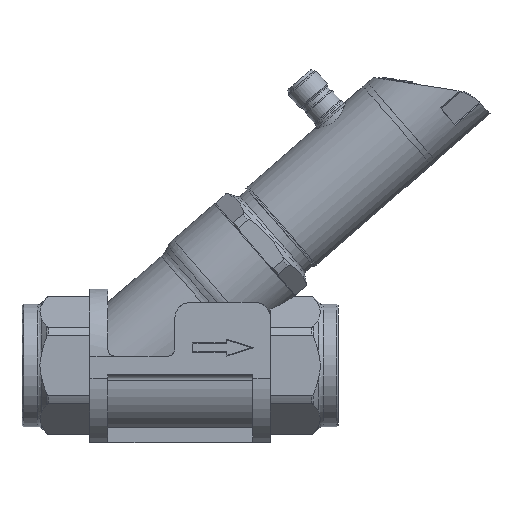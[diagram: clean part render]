
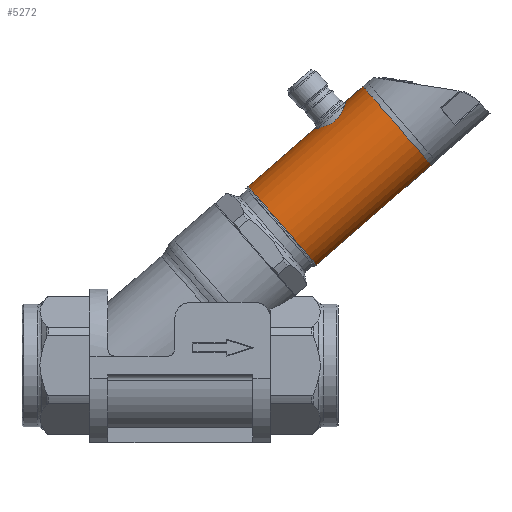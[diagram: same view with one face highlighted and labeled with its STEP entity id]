
A CAD part, top view. The second image highlights one B-rep face of the part: STEP entity #5272.
In plain terms, the highlighted cylindrical face has radius 17 mm (diameter 34 mm), a full revolution.
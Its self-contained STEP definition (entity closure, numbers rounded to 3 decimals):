
#735=CYLINDRICAL_SURFACE('',#5595,17.);
#860=CIRCLE('',#5596,17.);
#861=CIRCLE('',#5597,17.);
#1150=ORIENTED_EDGE('',*,*,#2413,.F.);
#1151=ORIENTED_EDGE('',*,*,#2414,.T.);
#1152=ORIENTED_EDGE('',*,*,#2415,.T.);
#1153=ORIENTED_EDGE('',*,*,#2416,.F.);
#1154=ORIENTED_EDGE('',*,*,#2417,.T.);
#1155=ORIENTED_EDGE('',*,*,#2418,.T.);
#1156=ORIENTED_EDGE('',*,*,#2419,.F.);
#1157=ORIENTED_EDGE('',*,*,#2420,.T.);
#2413=EDGE_CURVE('',#3038,#3038,#860,.T.);
#2414=EDGE_CURVE('',#3039,#3040,#3410,.T.);
#2415=EDGE_CURVE('',#3040,#3041,#3411,.T.);
#2416=EDGE_CURVE('',#3042,#3041,#3412,.T.);
#2417=EDGE_CURVE('',#3042,#3043,#3413,.T.);
#2418=EDGE_CURVE('',#3043,#3044,#3414,.T.);
#2419=EDGE_CURVE('',#3039,#3044,#3415,.T.);
#2420=EDGE_CURVE('',#3045,#3045,#861,.T.);
#3038=VERTEX_POINT('',#7605);
#3039=VERTEX_POINT('',#7611);
#3040=VERTEX_POINT('',#7612);
#3041=VERTEX_POINT('',#7617);
#3042=VERTEX_POINT('',#7629);
#3043=VERTEX_POINT('',#7635);
#3044=VERTEX_POINT('',#7640);
#3045=VERTEX_POINT('',#7653);
#3410=B_SPLINE_CURVE_WITH_KNOTS('',3,(#7606,#7607,#7608,#7609,#7610),
 .UNSPECIFIED.,.F.,.F.,(4,1,4),(0.,0.002,
0.005),.UNSPECIFIED.);
#3411=B_SPLINE_CURVE_WITH_KNOTS('',3,(#7613,#7614,#7615,#7616),
 .UNSPECIFIED.,.F.,.F.,(4,4),(0.,0.005),
 .UNSPECIFIED.);
#3412=B_SPLINE_CURVE_WITH_KNOTS('',3,(#7618,#7619,#7620,#7621,#7622,#7623,
#7624,#7625,#7626,#7627,#7628),.UNSPECIFIED.,.F.,.F.,(4,1,1,1,1,1,1,1,4),
(0.002,0.004,0.006,0.008,
0.01,0.012,0.014,0.016,
0.018),.UNSPECIFIED.);
#3413=B_SPLINE_CURVE_WITH_KNOTS('',3,(#7630,#7631,#7632,#7633,#7634),
 .UNSPECIFIED.,.F.,.F.,(4,1,4),(0.,0.002,
0.005),.UNSPECIFIED.);
#3414=B_SPLINE_CURVE_WITH_KNOTS('',3,(#7636,#7637,#7638,#7639),
 .UNSPECIFIED.,.F.,.F.,(4,4),(0.,0.005),
 .UNSPECIFIED.);
#3415=B_SPLINE_CURVE_WITH_KNOTS('',3,(#7641,#7642,#7643,#7644,#7645,#7646,
#7647,#7648,#7649,#7650,#7651),.UNSPECIFIED.,.F.,.F.,(4,1,1,1,1,1,1,1,4),
(0.002,0.004,0.006,0.008,
0.01,0.012,0.014,0.016,
0.018),.UNSPECIFIED.);
#3562=EDGE_LOOP('',(#1150));
#3563=EDGE_LOOP('',(#1151,#1152,#1153,#1154,#1155,#1156));
#3564=EDGE_LOOP('',(#1157));
#3907=FACE_BOUND('',#3562,.T.);
#3908=FACE_BOUND('',#3563,.T.);
#3909=FACE_BOUND('',#3564,.T.);
#5272=ADVANCED_FACE('',(#3907,#3908,#3909),#735,.T.);
#5595=AXIS2_PLACEMENT_3D('',#7603,#6212,#6213);
#5596=AXIS2_PLACEMENT_3D('',#7604,#6214,#6215);
#5597=AXIS2_PLACEMENT_3D('',#7652,#6216,#6217);
#6212=DIRECTION('',(0.,-1.,0.));
#6213=DIRECTION('',(0.,0.,-1.));
#6214=DIRECTION('',(0.,-1.,0.));
#6215=DIRECTION('',(0.,0.,-1.));
#6216=DIRECTION('',(0.,-1.,0.));
#6217=DIRECTION('',(0.,0.,-1.));
#7603=CARTESIAN_POINT('',(0.,7.6,0.));
#7604=CARTESIAN_POINT('',(0.,19.4,0.));
#7605=CARTESIAN_POINT('',(0.,19.4,-17.));
#7606=CARTESIAN_POINT('',(-16.403,48.974,4.466));
#7607=CARTESIAN_POINT('',(-16.586,48.633,3.793));
#7608=CARTESIAN_POINT('',(-16.898,48.241,2.311));
#7609=CARTESIAN_POINT('',(-17.,48.428,0.738));
#7610=CARTESIAN_POINT('',(-17.,48.639,0.));
#7611=CARTESIAN_POINT('',(-16.403,48.974,4.466));
#7612=CARTESIAN_POINT('',(-17.,48.639,0.));
#7613=CARTESIAN_POINT('',(-17.,48.639,0.));
#7614=CARTESIAN_POINT('',(-17.,48.217,-1.478));
#7615=CARTESIAN_POINT('',(-16.771,48.287,-3.113));
#7616=CARTESIAN_POINT('',(-16.403,48.974,-4.466));
#7617=CARTESIAN_POINT('',(-16.403,48.974,-4.466));
#7618=CARTESIAN_POINT('',(-16.403,60.946,-4.466));
#7619=CARTESIAN_POINT('',(-16.247,60.655,-5.038));
#7620=CARTESIAN_POINT('',(-15.885,59.955,-6.126));
#7621=CARTESIAN_POINT('',(-15.292,58.619,-7.467));
#7622=CARTESIAN_POINT('',(-14.746,56.951,-8.472));
#7623=CARTESIAN_POINT('',(-14.493,54.956,-8.884));
#7624=CARTESIAN_POINT('',(-14.747,52.969,-8.47));
#7625=CARTESIAN_POINT('',(-15.29,51.303,-7.47));
#7626=CARTESIAN_POINT('',(-15.887,49.961,-6.121));
#7627=CARTESIAN_POINT('',(-16.247,49.266,-5.039));
#7628=CARTESIAN_POINT('',(-16.403,48.974,-4.466));
#7629=CARTESIAN_POINT('',(-16.403,60.946,-4.466));
#7630=CARTESIAN_POINT('',(-16.403,60.946,-4.466));
#7631=CARTESIAN_POINT('',(-16.586,61.288,-3.793));
#7632=CARTESIAN_POINT('',(-16.898,61.679,-2.309));
#7633=CARTESIAN_POINT('',(-17.,61.492,-0.738));
#7634=CARTESIAN_POINT('',(-17.,61.281,0.));
#7635=CARTESIAN_POINT('',(-17.,61.281,0.));
#7636=CARTESIAN_POINT('',(-17.,61.281,0.));
#7637=CARTESIAN_POINT('',(-17.,61.703,1.478));
#7638=CARTESIAN_POINT('',(-16.771,61.633,3.113));
#7639=CARTESIAN_POINT('',(-16.403,60.946,4.466));
#7640=CARTESIAN_POINT('',(-16.403,60.946,4.466));
#7641=CARTESIAN_POINT('',(-16.403,48.974,4.466));
#7642=CARTESIAN_POINT('',(-16.247,49.265,5.038));
#7643=CARTESIAN_POINT('',(-15.885,49.965,6.126));
#7644=CARTESIAN_POINT('',(-15.292,51.301,7.467));
#7645=CARTESIAN_POINT('',(-14.746,52.969,8.472));
#7646=CARTESIAN_POINT('',(-14.493,54.964,8.884));
#7647=CARTESIAN_POINT('',(-14.747,56.951,8.47));
#7648=CARTESIAN_POINT('',(-15.29,58.617,7.47));
#7649=CARTESIAN_POINT('',(-15.887,59.959,6.121));
#7650=CARTESIAN_POINT('',(-16.247,60.654,5.039));
#7651=CARTESIAN_POINT('',(-16.403,60.946,4.466));
#7652=CARTESIAN_POINT('',(0.,69.16,0.));
#7653=CARTESIAN_POINT('',(0.,69.16,-17.));
